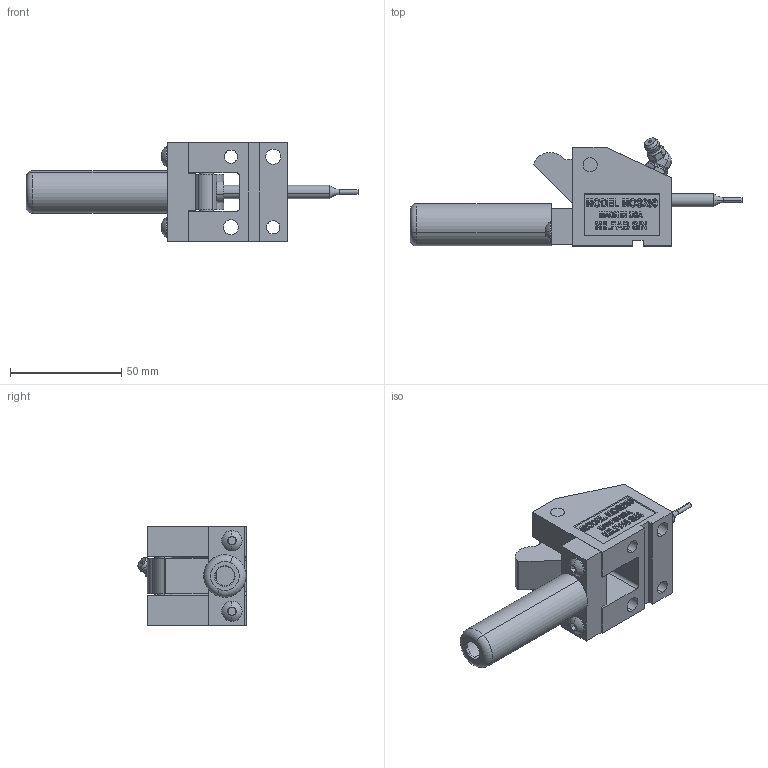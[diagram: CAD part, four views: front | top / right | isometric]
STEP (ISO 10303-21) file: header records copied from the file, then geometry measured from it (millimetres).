
FILE_DESCRIPTION (( 'STEP AP214' ), '1' );
FILE_NAME ('MOS250-C.STEP', '2014-01-06T20:18:08', ( 'user' ), ( '' ), 'SwSTEP 2.0', 'SolidWorks 2009', '' );
FILE_SCHEMA (( 'AUTOMOTIVE_DESIGN' ));
Length unit declared in the file: inch
Products named in the file (10): MOS250-BODY; M-O-250-POINT; MOS250-PUNCH; 250 PIVOT PIN; 250-O-STRAP; 250-TRIGGER; GREASE ZERK; OS250-CAGE; 10-SCREW; MOS250-C
Assembly tree (10 placements, depth 2):
  MOS250-C
    MOS250-PUNCH
    250 PIVOT PIN
    MOS250-BODY
    250-TRIGGER
    OS250-CAGE
    M-O-250-POINT
    250-O-STRAP
    10-SCREW  x2
    GREASE ZERK
Bounding box: 149.22 x 48.58 x 44.45 mm (x, y, z)
Volume: 74338.9 mm3; surface area: 34125.8 mm2
Topology: 10 solids, 10 shells, 595 faces, 1542 edges, 1015 vertices
Faces by surface type: plane 345, bspline 110, cylinder 90, torus 26, cone 24
Entity records: 24408 total; most frequent: CARTESIAN_POINT 10608, ORIENTED_EDGE 3004, DIRECTION 2346, EDGE_CURVE 1502, VERTEX_POINT 991, VECTOR 978, LINE 978, AXIS2_PLACEMENT_3D 684
